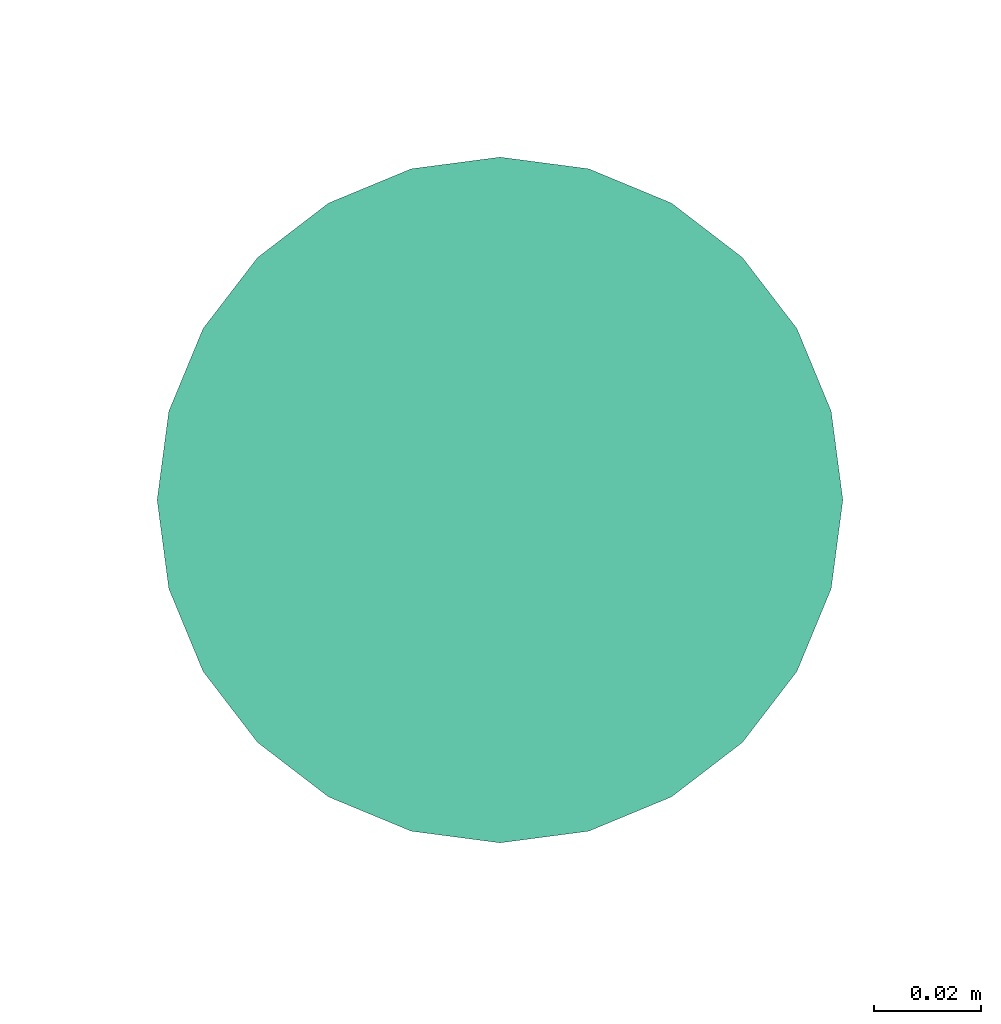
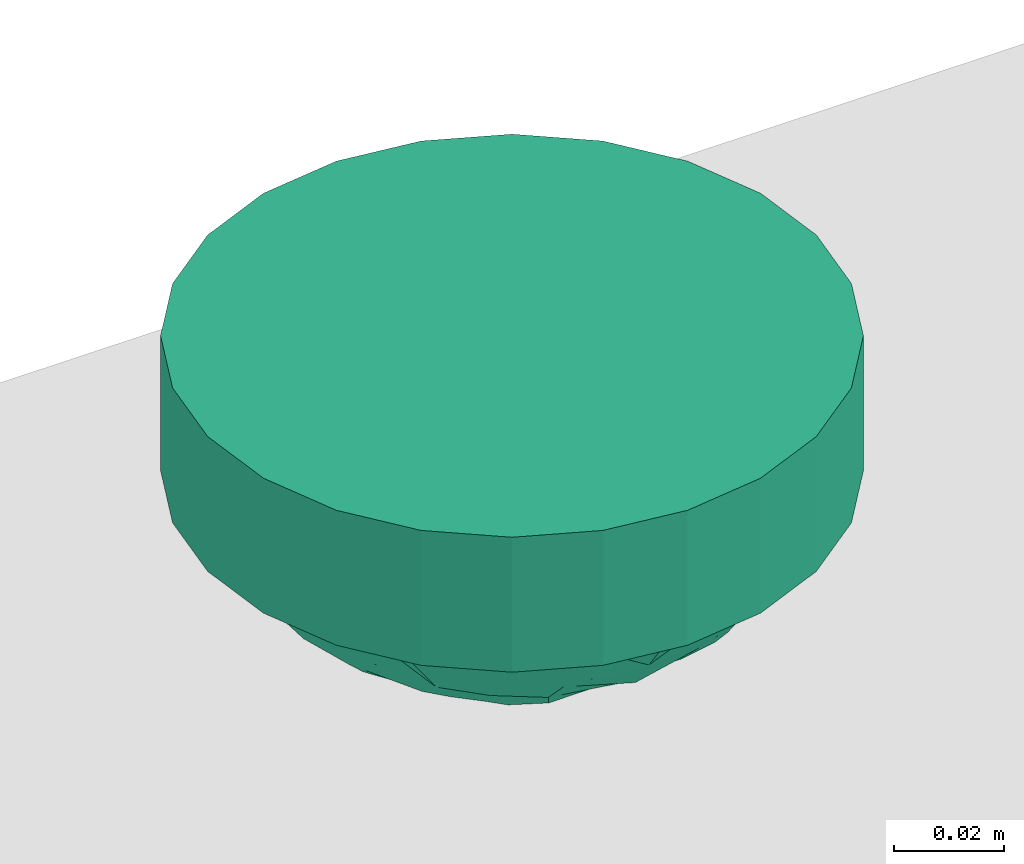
# One storey, part 81 of 153: 1 flow terminal.
"""IFC2X3 building model written with IfcOpenShell, lengths in metres."""

import ifcopenshell
import ifcopenshell.guid

model = None  # the IFC model being written
_history = None  # IfcOwnerHistory: only IFC2X3 demands one
_inside = {}  # id of a spatial element -> (the spatial element, [elements in it])
_under = {}  # id of a project, library or spatial element -> (it, [spatial elements below it])
_declared = {}  # id of a project -> (the project, [libraries it declares])
_typed = {}  # id of a type object -> (the type object, [elements of that type])
_made_of = {}  # id of a material, layer set ... -> (it, [elements and type objects made of it])


def new_model(schema):
    """Start an empty IFC model of exactly this schema.

    Asked for "IFC4X3", IfcOpenShell would pick the latest addendum, in which some entities
    have other attributes; the version numbers below select the first issue.
    IFC2X3 requires an IfcOwnerHistory on every rooted entity: one is made here for all.
    """
    global model, _history
    if schema == "IFC4X3":
        model = ifcopenshell.file(schema_version=(4, 3, 0, 0))
    else:
        model = ifcopenshell.file(schema=schema)
    _inside.clear()
    _under.clear()
    _declared.clear()
    _typed.clear()
    _made_of.clear()
    _history = None
    if model.schema == "IFC2X3":
        org = make("IfcOrganization", Name="unknown")
        user = make(
            "IfcPersonAndOrganization",
            ThePerson=make("IfcPerson", FamilyName="unknown"),
            TheOrganization=org,
        )
        app = make(
            "IfcApplication",
            ApplicationDeveloper=org,
            Version="unknown",
            ApplicationFullName="unknown",
            ApplicationIdentifier="unknown",
        )
        _history = make(
            "IfcOwnerHistory",
            OwningUser=user,
            OwningApplication=app,
            ChangeAction="ADDED",
            CreationDate=0,
        )
    return model


def make(cls, **values):
    """One entity of the class cls with the attributes given. An attribute that is None is left unset."""
    return model.create_entity(
        cls, **{name: value for name, value in values.items() if value is not None}
    )


def entity(cls, *values):
    """Any entity or typed value of the class cls, its attributes in the order of the schema. None: left unset."""
    e = model.create_entity(cls)
    for i, value in enumerate(values):
        if value is not None:
            e[i] = value
    return e


def rooted(cls, **values):
    """An entity with a GlobalId (a new one), such as an element, a storey or a relation."""
    return make(cls, GlobalId=ifcopenshell.guid.new(), OwnerHistory=_history, **values)


def si_unit(unit_type, name, prefix=None):
    """IfcSIUnit, for example si_unit("LENGTHUNIT", "METRE", prefix="MILLI")."""
    return make("IfcSIUnit", UnitType=unit_type, Prefix=prefix, Name=name)


def converted_unit(unit_type, name, factor, base, dimensions=None, offset=None):
    """IfcConversionBasedUnit, such as the inch: factor (a typed value) times the base unit."""
    return make(
        "IfcConversionBasedUnit"
        if offset is None
        else "IfcConversionBasedUnitWithOffset",
        ConversionOffset=offset,
        Dimensions=None
        if dimensions is None
        else entity("IfcDimensionalExponents", *dimensions),
        UnitType=unit_type,
        Name=name,
        ConversionFactor=make(
            "IfcMeasureWithUnit", ValueComponent=factor, UnitComponent=base
        ),
    )


def derived_unit(unit_type, elements):
    """IfcDerivedUnit: a product of units, each with its exponent."""
    return make(
        "IfcDerivedUnit",
        Elements=[
            make("IfcDerivedUnitElement", Unit=unit, Exponent=power)
            for unit, power in elements
        ],
        UnitType=unit_type,
    )


def assignment(units):
    """IfcUnitAssignment: the units of a project."""
    return None if units is None else make("IfcUnitAssignment", Units=units)


def point(xyz):
    """IfcCartesianPoint."""
    return None if xyz is None else make("IfcCartesianPoint", Coordinates=xyz)


def direction(xyz):
    """IfcDirection."""
    return None if xyz is None else make("IfcDirection", DirectionRatios=xyz)


def frame(location, z_axis=None, x_axis=None):
    """IfcAxis2Placement3D, a coordinate frame: its origin and axes. An axis left out is left unset."""
    return make(
        "IfcAxis2Placement3D",
        Location=point(location),
        Axis=direction(z_axis),
        RefDirection=direction(x_axis),
    )


def origin():
    """The frame at (0, 0, 0) with its axes left unset."""
    return frame((0.0, 0.0, 0.0))


def place(relative_to, where):
    """IfcLocalPlacement: puts the frame where relative to a parent placement (None: the world)."""
    return make(
        "IfcLocalPlacement", PlacementRelTo=relative_to, RelativePlacement=where
    )


def context(
    kind, dimensions, precision=None, world=None, true_north=None, identifier=None
):
    """IfcGeometricRepresentationContext, for example the 3D "Model" context."""
    return make(
        "IfcGeometricRepresentationContext",
        ContextIdentifier=identifier,
        ContextType=kind,
        CoordinateSpaceDimension=dimensions,
        Precision=precision,
        WorldCoordinateSystem=world,
        TrueNorth=true_north,
    )


def subcontext(parent, identifier, kind, view, scale=None):
    """IfcGeometricRepresentationSubContext, for example "Body" below "Model"."""
    return make(
        "IfcGeometricRepresentationSubContext",
        ContextIdentifier=identifier,
        ContextType=kind,
        ParentContext=parent,
        TargetScale=scale,
        TargetView=view,
    )


def project(units=None, contexts=None):
    """IfcProject with its units and contexts."""
    return rooted(
        "IfcProject",
        Name="project",
        RepresentationContexts=contexts,
        UnitsInContext=assignment(units),
    )


def spatial(cls, under=None, at=None, **own):
    """A site, building, storey or space (cls), placed at a placement, below another one or the project."""
    s = rooted(cls, ObjectPlacement=at, **own)
    if under is not None:
        _under.setdefault(under.id(), (under, []))[1].append(s)
    return s


def faces_of(points, faces, orient=None, outer=None):
    """IfcFace entities. A face is a list of loops; a loop is a list of indices into points, from 0.

    orient and outer hold one flag for each loop. By default every Orientation is true, the
    first loop of a face is its IfcFaceOuterBound and the others are IfcFaceBound.
    """
    made = []
    for i, loops in enumerate(faces):
        bounds = []
        for j, loop in enumerate(loops):
            is_outer = j == 0 if outer is None else outer[i][j]
            bounds.append(
                make(
                    "IfcFaceOuterBound" if is_outer else "IfcFaceBound",
                    Bound=make("IfcPolyLoop", Polygon=[points[k] for k in loop]),
                    Orientation=True if orient is None else orient[i][j],
                )
            )
        made.append(make("IfcFace", Bounds=bounds))
    return made


def faceted_brep(points, faces, orient=None, outer=None, voids=None):
    """IfcFacetedBrep: a solid bounded by flat faces; with voids (closed shells), ...WithVoids."""
    shared = [point(p) for p in points]
    hull = make("IfcClosedShell", CfsFaces=faces_of(shared, faces, orient, outer))
    if voids is None:
        return make("IfcFacetedBrep", Outer=hull)
    return make(
        "IfcFacetedBrepWithVoids",
        Outer=hull,
        Voids=[
            make(cls, CfsFaces=faces_of(shared, fs, o, b)) for cls, fs, o, b in voids
        ],
    )


def shape(context_of_items, identifier, shape_type, items):
    """IfcShapeRepresentation: the items that make up one representation, for example the "Body"."""
    return make(
        "IfcShapeRepresentation",
        ContextOfItems=context_of_items,
        RepresentationIdentifier=identifier,
        RepresentationType=shape_type,
        Items=items,
    )


def source(mapping_origin, context_of_items, identifier, shape_type, items):
    """IfcRepresentationMap: a shape defined once, which mapped items show again and again."""
    return make(
        "IfcRepresentationMap",
        MappingOrigin=mapping_origin,
        MappedRepresentation=shape(context_of_items, identifier, shape_type, items),
    )


def transform(
    local_origin,
    x_axis=None,
    y_axis=None,
    z_axis=None,
    scale=None,
    scale2=None,
    scale3=None,
    uniform=True,
):
    """IfcCartesianTransformationOperator3D, or its non-uniform kind. x_axis, y_axis, z_axis: its Axis1, 2, 3."""
    if uniform:
        return make(
            "IfcCartesianTransformationOperator3D",
            Axis1=direction(x_axis),
            Axis2=direction(y_axis),
            LocalOrigin=point(local_origin),
            Scale=scale,
            Axis3=direction(z_axis),
        )
    return make(
        "IfcCartesianTransformationOperator3DnonUniform",
        Axis1=direction(x_axis),
        Axis2=direction(y_axis),
        LocalOrigin=point(local_origin),
        Scale=scale,
        Axis3=direction(z_axis),
        Scale2=scale2,
        Scale3=scale3,
    )


def mapped(mapping_source, mapping_target):
    """IfcMappedItem: shows the shape of a source again, moved by a transform."""
    return make(
        "IfcMappedItem", MappingSource=mapping_source, MappingTarget=mapping_target
    )


def made_of(thing, what):
    """Note that an element or type object is made of a material, layer set ...; save() writes the relation."""
    if what is not None:
        _made_of.setdefault(what.id(), (what, []))[1].append(thing)
    return thing


def type_object(cls, material=None, **own):
    """A type object (cls), such as IfcWallType, which elements share."""
    return made_of(rooted(cls, **own), material)


def type_shapes(of_type, sources):
    """Give a type object the sources (RepresentationMaps) that its elements show as mapped items."""
    of_type.RepresentationMaps = sources


def element(
    cls,
    number,
    at=None,
    inside=None,
    cuts=None,
    type_object=None,
    material=None,
    context=None,
    identifier="Body",
    shape_type=None,
    held_by="IfcProductDefinitionShape",
    body=None,
    shapes=None,
    **own,
):
    """One element of the class cls, such as IfcWall. Its Tag is "e" and its number.

    at: its placement. inside: the storey or other place that contains it. cuts: it is an
    opening in that element (IfcRelVoidsElement). A single representation is given by context,
    identifier, shape_type and body (its items); several are given by shapes. held_by: the class
    of the entity that holds the representations. save() writes the other relations.
    """
    e = rooted(cls, Tag="e%d" % number, ObjectPlacement=at, **own)
    if body is not None:
        shapes = [shape(context, identifier, shape_type, body)]
    if shapes is not None:
        e.Representation = make(held_by, Representations=shapes)
    if inside is not None:
        _inside.setdefault(inside.id(), (inside, []))[1].append(e)
    if cuts is not None:
        rooted(
            "IfcRelVoidsElement", RelatingBuildingElement=cuts, RelatedOpeningElement=e
        )
    if type_object is not None:
        _typed.setdefault(type_object.id(), (type_object, []))[1].append(e)
    return made_of(e, material)


def aggregate(whole, parts):
    """IfcRelAggregates: a whole, such as a stair, and the parts it consists of."""
    return rooted("IfcRelAggregates", RelatingObject=whole, RelatedObjects=parts)


def save(model, path):
    """Write the relations noted so far, then the file.

    IfcRelAggregates (storeys below a building ...), IfcRelContainedInSpatialStructure (elements
    in a storey), IfcRelDefinesByType, IfcRelAssociatesMaterial and IfcRelDeclares: one each for
    every whole, place, type object, material and project.
    """
    for whole, parts in _under.values():
        aggregate(whole, parts)
    for where, things in _inside.values():
        rooted(
            "IfcRelContainedInSpatialStructure",
            RelatedElements=things,
            RelatingStructure=where,
        )
    for kind, things in _typed.values():
        rooted("IfcRelDefinesByType", RelatedObjects=things, RelatingType=kind)
    for what, things in _made_of.values():
        rooted("IfcRelAssociatesMaterial", RelatedObjects=things, RelatingMaterial=what)
    for by, libraries in _declared.values():
        rooted("IfcRelDeclares", RelatingContext=by, RelatedDefinitions=libraries)
    model.write(path)


model = new_model("IFC2X3")

# Units and contexts
model_context = context("Model", 3, precision=1e-05, world=origin(), true_north=direction((6.12303176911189e-17, 1.0)))
body_context = subcontext(model_context, "Body", "Model", "MODEL_VIEW")
ifc_project = project(units=[si_unit("LENGTHUNIT", "METRE"), si_unit("AREAUNIT", "SQUARE_METRE"), si_unit("VOLUMEUNIT", "CUBIC_METRE"), converted_unit("PLANEANGLEUNIT", "DEGREE", entity("IfcRatioMeasure", 0.0174532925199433), si_unit("PLANEANGLEUNIT", "RADIAN"), dimensions=[0, 0, 0, 0, 0, 0, 0]), si_unit("MASSUNIT", "GRAM", prefix="KILO"), derived_unit("MASSDENSITYUNIT", [(si_unit("MASSUNIT", "GRAM", prefix="KILO"), 1), (si_unit("LENGTHUNIT", "METRE"), -3)]), si_unit("TIMEUNIT", "SECOND"), si_unit("FREQUENCYUNIT", "HERTZ"), si_unit("THERMODYNAMICTEMPERATUREUNIT", "DEGREE_CELSIUS"), derived_unit("THERMALTRANSMITTANCEUNIT", [(si_unit("MASSUNIT", "GRAM", prefix="KILO"), 1), (si_unit("THERMODYNAMICTEMPERATUREUNIT", "KELVIN"), -1), (si_unit("TIMEUNIT", "SECOND"), -3)]), derived_unit("VOLUMETRICFLOWRATEUNIT", [(si_unit("LENGTHUNIT", "METRE"), 3), (si_unit("TIMEUNIT", "SECOND"), -1)]), si_unit("ELECTRICCURRENTUNIT", "AMPERE"), si_unit("ELECTRICVOLTAGEUNIT", "VOLT"), si_unit("POWERUNIT", "WATT"), si_unit("FORCEUNIT", "NEWTON"), si_unit("ILLUMINANCEUNIT", "LUX"), si_unit("LUMINOUSFLUXUNIT", "LUMEN"), si_unit("LUMINOUSINTENSITYUNIT", "CANDELA"), derived_unit("USERDEFINED", [(si_unit("MASSUNIT", "GRAM", prefix="KILO"), -1), (si_unit("LENGTHUNIT", "METRE"), -2), (si_unit("TIMEUNIT", "SECOND"), 3), (si_unit("LUMINOUSFLUXUNIT", "LUMEN"), 1)]), derived_unit("LINEARVELOCITYUNIT", [(si_unit("LENGTHUNIT", "METRE"), 1), (si_unit("TIMEUNIT", "SECOND"), -1)]), si_unit("PRESSUREUNIT", "PASCAL"), derived_unit("USERDEFINED", [(si_unit("LENGTHUNIT", "METRE"), -2), (si_unit("MASSUNIT", "GRAM", prefix="KILO"), 1), (si_unit("TIMEUNIT", "SECOND"), -2)])], contexts=[model_context])

# Site, building, storey
site_placement = place(None, origin())
site = spatial("IfcSite", under=ifc_project, at=site_placement, Name="Default", CompositionType="ELEMENT")
building_placement = place(site_placement, origin())
building = spatial("IfcBuilding", under=site, at=building_placement, CompositionType="ELEMENT")
storey_placement = place(building_placement, frame((0.0, 0.0, -4.62)))
storey = spatial("IfcBuildingStorey", under=building, at=storey_placement, Name="S02", CompositionType="ELEMENT", Elevation=-4.62)

# Flow terminal
light_fixture_type = type_object("IfcLightFixtureType", Name="Détecteur 360°", PredefinedType="NOTDEFINED")
shared_shape = source(origin(), body_context, "Body", "Brep", [
    faceted_brep([(0.0, -0.0397165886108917, 0.0531256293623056), (0.0, -0.034524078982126, 0.0563702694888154), (-0.0175153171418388, -0.0435914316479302, 0.0478512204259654), (-0.0194029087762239, -0.000878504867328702, 0.0644483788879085), (0.0, 0.0, 0.0669999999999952), (0.0, 0.00603476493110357, 0.0659648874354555), (-0.0174057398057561, -0.0159851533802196, 0.0630502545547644), (-0.0366619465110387, -0.0127227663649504, 0.0549213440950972), (-0.026998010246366, -0.0195753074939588, 0.0584711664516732), (-0.0202403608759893, -0.0335607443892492, 0.054639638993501), (-0.0359767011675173, -0.0348394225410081, 0.0444249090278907), (-0.0276843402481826, -0.0401006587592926, 0.0459804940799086), (-0.0133088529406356, -0.0517577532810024, 0.0400582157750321), (-0.0172617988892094, -0.0486391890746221, 0.042533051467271), (-0.0256912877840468, -0.0533485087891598, 0.0299999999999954), (-0.0462941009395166, -0.0369183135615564, 0.0299999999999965), (0.0, -0.0241390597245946, 0.0628595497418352), (-0.0186245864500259, -0.0267295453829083, 0.0589100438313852), (-0.0139070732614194, -0.0374370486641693, 0.0540817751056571), (0.0, 0.0449090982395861, 0.049880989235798), (-0.0172618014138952, 0.0486391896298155, 0.0425330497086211), (0.0, 0.0397165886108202, 0.0531256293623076), (-0.0186245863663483, 0.0267295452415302, 0.0589100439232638), (-0.0202403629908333, 0.0335607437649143, 0.054639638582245), (-0.0353547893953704, 0.0284533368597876, 0.0494330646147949), (0.0, 0.0120695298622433, 0.0649297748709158), (-0.0249385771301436, 0.0204731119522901, 0.0590841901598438), (-0.0191783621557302, 0.0150189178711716, 0.062775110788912), (-0.0465404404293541, -0.0196510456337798, 0.0438984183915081), (-0.052010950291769, -0.0250471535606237, 0.029999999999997), (-0.0453471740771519, -0.0286501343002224, 0.0397747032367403), (-0.0365036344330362, -0.0226255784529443, 0.0516441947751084), (-0.0175153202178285, 0.0435914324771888, 0.0478512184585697), (-0.0359926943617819, 0.0451334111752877, 0.0299999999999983), (-0.0276843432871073, 0.0401006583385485, 0.0459804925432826), (-0.00849704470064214, -0.0572729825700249, 0.0299999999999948), (0.0, -0.0592123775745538, 0.0299999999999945), (0.0, -0.0545512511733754, 0.0364787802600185), (0.0, -0.049890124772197, 0.0429575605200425), (-0.0169940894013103, -0.055333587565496, 0.0299999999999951), (-0.0359767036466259, 0.0348394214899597, 0.0444249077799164), (-0.025691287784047, 0.0533485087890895, 0.0299999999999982), (-0.0308419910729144, 0.0492409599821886, 0.0299999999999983), (-0.0130265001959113, 0.0514867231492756, 0.040526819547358), (-0.0169940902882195, 0.0553335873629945, 0.029999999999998), (0.0, 0.0498901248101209, 0.0429575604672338), (-0.0353547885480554, -0.0284533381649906, 0.0494330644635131), (0.0, 0.0181042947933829, 0.0638946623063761), (-0.0473669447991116, -0.00128092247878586, 0.0474310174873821), (-0.0485435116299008, -0.00908961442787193, 0.0452357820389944), (-0.0366597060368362, -0.0032867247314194, 0.0563153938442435), (-0.0226425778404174, -0.0107553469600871, 0.0624973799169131), (0.0, -0.00603476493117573, 0.0659648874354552), (0.0, 0.0293315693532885, 0.0596149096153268), (-0.0139070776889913, 0.0374370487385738, 0.0540817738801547), (-0.0449600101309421, 0.018422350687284, 0.0461366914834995), (-0.0453471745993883, 0.0286501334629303, 0.0397747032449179), (-0.0476906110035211, 0.00670602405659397, 0.0466053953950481), (-0.0577277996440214, 0.0131759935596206, 0.0299999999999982), (-0.0577277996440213, 0.00658799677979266, 0.029999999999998), (-0.0577277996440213, 0.0, 0.0299999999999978), (0.0, -0.0449090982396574, 0.0498809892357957), (-0.0308419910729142, -0.049240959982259, 0.0299999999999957), (-0.0359926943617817, -0.0451334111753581, 0.029999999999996), (0.0, 0.0345240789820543, 0.0563702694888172), (-0.0411433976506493, 0.0410258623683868, 0.0299999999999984), (-0.0462941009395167, 0.0369183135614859, 0.0299999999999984), (-0.0491525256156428, -0.03098273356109, 0.0299999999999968), (-0.0577277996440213, -0.0131759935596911, 0.0299999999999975), (0.0, -0.018104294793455, 0.0638946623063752), (-0.0377433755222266, 0.0044838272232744, 0.0554913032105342), (-0.0577277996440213, -0.00658799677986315, 0.0299999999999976), (-0.0385149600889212, 0.0124844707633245, 0.0536578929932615), (-0.0491525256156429, 0.0309827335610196, 0.0299999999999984), (-0.0548693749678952, 0.0191115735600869, 0.0299999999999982), (0.0, 0.0241390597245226, 0.0628595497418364), (-0.014625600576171, 0.0100436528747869, 0.0649170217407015), (-0.0271766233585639, 0.00920278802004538, 0.0609170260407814), (0.0, -0.0120695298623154, 0.0649297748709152), (-0.0520109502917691, 0.0250471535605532, 0.0299999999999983), (-0.0411433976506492, -0.0410258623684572, 0.0299999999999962), (-0.0548693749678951, -0.0191115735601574, 0.0299999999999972), (0.0, -0.0293315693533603, 0.0596149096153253), (0.0, 0.0545512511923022, 0.0364787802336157), (0.0, 0.0592123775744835, 0.0299999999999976), (-0.00849704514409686, 0.057272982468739, 0.0299999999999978), (-0.0127455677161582, 0.0563032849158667, 0.0299999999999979), (-0.0213426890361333, 0.054341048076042, 0.0299999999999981), (0.0175153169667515, 0.0435914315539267, 0.0478512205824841), (0.0194029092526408, 0.000878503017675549, 0.0644483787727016), (0.017405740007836, 0.0159851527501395, 0.0630502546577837), (0.0366619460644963, 0.012722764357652, 0.0549213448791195), (0.0269980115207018, 0.0195753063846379, 0.0584711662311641), (0.0202403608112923, 0.0335607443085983, 0.0546396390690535), (0.0359767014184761, 0.0348394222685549, 0.0444249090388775), (0.0276843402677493, 0.0401006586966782, 0.0459804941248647), (0.0133088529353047, 0.0517577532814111, 0.0400582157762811), (0.0172617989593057, 0.0486391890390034, 0.0425330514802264), (0.0256912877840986, 0.0533485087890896, 0.0299999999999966), (0.0462941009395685, 0.0369183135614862, 0.0299999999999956), (0.00849704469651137, 0.0572729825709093, 0.0299999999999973), (0.0169940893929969, 0.0553335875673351, 0.029999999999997), (0.0172617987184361, -0.0486391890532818, 0.0425330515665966), (0.025691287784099, -0.0533485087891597, 0.0299999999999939), (0.0308419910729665, -0.0492409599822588, 0.0299999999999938), (0.0175153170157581, -0.0435914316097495, 0.0478512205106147), (0.0186245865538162, -0.0267295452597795, 0.0589100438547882), (0.0202403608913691, -0.03356074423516, 0.0546396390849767), (0.0353547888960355, -0.0284533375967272, 0.0494330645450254), (0.0249385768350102, -0.0204731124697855, 0.0590841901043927), (0.0191783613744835, -0.0150189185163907, 0.062775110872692), (0.0465404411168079, 0.0196510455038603, 0.0438984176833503), (0.0577277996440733, 0.0131759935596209, 0.0299999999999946), (0.0548693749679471, 0.0191115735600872, 0.0299999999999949), (0.0520109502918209, 0.0250471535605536, 0.0299999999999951), (0.0365036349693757, 0.0226255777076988, 0.0516441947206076), (0.0186245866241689, 0.0267295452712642, 0.0589100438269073), (0.0359926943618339, -0.0451334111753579, 0.0299999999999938), (0.0276843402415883, -0.0401006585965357, 0.0459804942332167), (0.0139070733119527, 0.0374370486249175, 0.0540817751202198), (0.0359767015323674, -0.0348394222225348, 0.044424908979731), (0.0226425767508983, 0.0107553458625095, 0.0624973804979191), (0.0169940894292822, -0.0553335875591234, 0.0299999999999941), (0.0130264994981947, -0.0514867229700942, 0.0405268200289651), (0.0453471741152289, 0.0286501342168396, 0.039774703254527), (0.0353547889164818, 0.0284533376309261, 0.0494330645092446), (0.0473669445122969, 0.00128092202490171, 0.0474310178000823), (0.0485435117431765, 0.00908961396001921, 0.0452357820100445), (0.0366597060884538, 0.00328672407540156, 0.0563153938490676), (0.0139070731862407, -0.0374370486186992, 0.0540817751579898), (0.0449600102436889, -0.018422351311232, 0.0461366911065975), (0.0453471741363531, -0.0286501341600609, 0.039774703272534), (0.0476906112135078, -0.00670602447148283, 0.046605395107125), (0.0577277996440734, -0.0131759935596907, 0.0299999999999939), (0.0577277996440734, -0.00658799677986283, 0.0299999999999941), (0.0577277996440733, 0.0, 0.0299999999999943), (0.0308419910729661, 0.0492409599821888, 0.0299999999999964), (0.0359926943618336, 0.0451334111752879, 0.0299999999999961), (0.0411433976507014, -0.041025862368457, 0.0299999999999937), (0.0462941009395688, -0.0369183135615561, 0.0299999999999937), (0.0491525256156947, 0.0309827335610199, 0.0299999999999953), (0.037743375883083, -0.00448382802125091, 0.0554913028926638), (0.0577277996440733, 0.00658799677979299, 0.0299999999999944), (0.0385149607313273, -0.0124844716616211, 0.0536578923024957), (0.049152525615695, -0.0309827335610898, 0.0299999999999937), (0.0548693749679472, -0.0191115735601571, 0.0299999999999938), (0.0146256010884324, -0.0100436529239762, 0.0649170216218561), (0.0271766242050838, -0.00920278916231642, 0.0609170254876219), (0.0520109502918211, -0.0250471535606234, 0.0299999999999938), (0.041143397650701, 0.0410258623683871, 0.0299999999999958), (0.00849704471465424, -0.0572729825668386, 0.0299999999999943), (0.0127455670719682, -0.056303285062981, 0.0299999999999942), (0.0213426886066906, -0.0543410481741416, 0.029999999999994), (0.0, 0.0, 0.0299999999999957)], [[[0, 1, 2]], [[3, 4, 5]], [[6, 7, 8]], [[9, 10, 11]], [[12, 13, 14]], [[10, 15, 11]], [[9, 16, 17]], [[18, 9, 11]], [[19, 20, 21]], [[22, 23, 24]], [[25, 26, 27]], [[28, 29, 30]], [[8, 31, 17]], [[32, 33, 34]], [[35, 36, 37, 38, 39]], [[23, 40, 24]], [[20, 41, 42]], [[19, 43, 20]], [[44, 43, 45]], [[20, 32, 21]], [[30, 10, 46]], [[22, 26, 47]], [[48, 49, 50]], [[3, 51, 52]], [[53, 54, 23]], [[55, 24, 56]], [[57, 58, 59, 60]], [[13, 61, 0]], [[13, 0, 2]], [[2, 62, 13]], [[18, 2, 1]], [[2, 11, 63]], [[32, 64, 21]], [[32, 42, 33]], [[34, 33, 65, 66]], [[20, 42, 32]], [[54, 32, 34]], [[28, 30, 31]], [[10, 67, 15]], [[49, 68, 28]], [[8, 17, 69]], [[7, 6, 51]], [[28, 31, 7]], [[57, 48, 70]], [[58, 57, 55]], [[48, 71, 49]], [[70, 48, 50]], [[3, 50, 51]], [[55, 26, 24]], [[72, 57, 70]], [[26, 55, 72]], [[56, 40, 73]], [[56, 74, 55]], [[47, 75, 22]], [[52, 4, 3]], [[7, 50, 49]], [[5, 76, 3]], [[70, 3, 77]], [[51, 78, 52]], [[26, 25, 47]], [[76, 25, 27]], [[23, 22, 75]], [[26, 22, 24]], [[53, 64, 54]], [[23, 34, 40]], [[66, 40, 34]], [[40, 66, 73]], [[56, 73, 79, 74]], [[72, 27, 26]], [[40, 56, 24]], [[23, 75, 53]], [[69, 17, 16]], [[78, 6, 69]], [[46, 10, 9]], [[46, 9, 17]], [[50, 7, 51]], [[30, 29, 67]], [[80, 63, 11, 15]], [[28, 68, 81, 29]], [[10, 30, 67]], [[30, 46, 31]], [[82, 18, 1]], [[82, 16, 9]], [[28, 7, 49]], [[12, 39, 38]], [[61, 13, 12]], [[83, 84, 85, 86, 44, 45]], [[43, 41, 20]], [[44, 87, 41, 43]], [[32, 54, 64]], [[23, 54, 34]], [[9, 18, 82]], [[2, 18, 11]], [[39, 12, 14]], [[38, 61, 12]], [[62, 2, 63]], [[62, 14, 13]], [[17, 31, 46]], [[7, 31, 8]], [[48, 60, 71]], [[71, 68, 49]], [[60, 48, 57]], [[3, 70, 50]], [[72, 70, 77]], [[72, 77, 27]], [[55, 57, 72]], [[74, 58, 55]], [[76, 27, 77]], [[3, 76, 77]], [[25, 76, 5]], [[69, 6, 8]], [[78, 51, 6]], [[45, 43, 19]], [[21, 64, 88]], [[89, 4, 52]], [[90, 91, 92]], [[93, 94, 95]], [[96, 97, 98]], [[94, 99, 95]], [[100, 84, 83, 45, 101]], [[102, 103, 104]], [[102, 105, 0]], [[106, 107, 108]], [[78, 109, 110]], [[111, 112, 113, 114]], [[92, 115, 116]], [[105, 117, 118]], [[119, 93, 95]], [[107, 120, 108]], [[89, 121, 5]], [[122, 123, 38]], [[61, 123, 102]], [[93, 75, 116]], [[124, 94, 125]], [[106, 109, 69]], [[126, 127, 128]], [[61, 102, 0]], [[82, 129, 107]], [[130, 108, 131]], [[132, 133, 134, 135]], [[97, 19, 21]], [[97, 21, 88]], [[88, 136, 97]], [[119, 88, 64]], [[88, 95, 137]], [[105, 1, 0]], [[105, 104, 117]], [[118, 117, 138, 139]], [[102, 104, 105]], [[129, 105, 118]], [[111, 124, 115]], [[94, 140, 99]], [[127, 112, 111]], [[92, 116, 47]], [[91, 90, 121]], [[111, 115, 91]], [[132, 126, 141]], [[133, 132, 130]], [[126, 142, 127]], [[141, 126, 128]], [[89, 128, 121]], [[130, 109, 108]], [[143, 132, 141]], [[109, 130, 143]], [[131, 120, 144]], [[131, 145, 130]], [[69, 16, 106]], [[5, 4, 89]], [[91, 128, 127]], [[52, 146, 89]], [[141, 89, 147]], [[121, 25, 5]], [[109, 78, 69]], [[146, 78, 110]], [[107, 106, 16]], [[109, 106, 108]], [[82, 1, 129]], [[107, 118, 120]], [[139, 120, 118]], [[120, 139, 144]], [[131, 144, 148, 145]], [[143, 110, 109]], [[120, 131, 108]], [[107, 16, 82]], [[47, 116, 75]], [[25, 90, 47]], [[125, 94, 93]], [[125, 93, 116]], [[128, 91, 121]], [[124, 114, 140]], [[149, 137, 95, 99]], [[111, 114, 124]], [[94, 124, 140]], [[124, 125, 115]], [[53, 119, 64]], [[53, 75, 93]], [[111, 91, 127]], [[96, 101, 45]], [[19, 97, 96]], [[37, 36, 150, 151, 122, 38]], [[123, 103, 102]], [[122, 152, 103, 123]], [[105, 129, 1]], [[107, 129, 118]], [[93, 119, 53]], [[88, 119, 95]], [[101, 96, 98]], [[45, 19, 96]], [[136, 88, 137]], [[136, 98, 97]], [[116, 115, 125]], [[91, 115, 92]], [[126, 135, 142]], [[142, 112, 127]], [[135, 126, 132]], [[89, 141, 128]], [[143, 141, 147]], [[143, 147, 110]], [[130, 132, 143]], [[145, 133, 130]], [[146, 110, 147]], [[89, 146, 147]], [[78, 146, 52]], [[47, 90, 92]], [[25, 121, 90]], [[38, 123, 61]], [[153, 66, 65]], [[153, 65, 33]], [[153, 33, 42]], [[153, 42, 41]], [[153, 41, 87]], [[153, 73, 66]], [[153, 79, 73]], [[153, 74, 79]], [[153, 58, 74]], [[153, 87, 44]], [[153, 44, 86]], [[153, 86, 85]], [[153, 85, 84]], [[153, 84, 100]], [[153, 59, 58]], [[153, 60, 59]], [[153, 71, 60]], [[153, 68, 71]], [[153, 81, 68]], [[153, 29, 81]], [[153, 67, 29]], [[153, 15, 67]], [[153, 80, 15]], [[153, 63, 80]], [[153, 62, 63]], [[153, 14, 62]], [[153, 39, 14]], [[153, 35, 39]], [[153, 36, 35]], [[153, 100, 101]], [[153, 101, 98]], [[153, 98, 136]], [[153, 136, 137]], [[153, 137, 149]], [[153, 149, 99]], [[153, 99, 140]], [[153, 140, 114]], [[153, 114, 113]], [[153, 113, 112]], [[153, 112, 142]], [[153, 150, 36]], [[153, 151, 150]], [[153, 122, 151]], [[153, 152, 122]], [[153, 103, 152]], [[153, 104, 103]], [[153, 117, 104]], [[153, 138, 117]], [[153, 139, 138]], [[153, 144, 139]], [[153, 148, 144]], [[153, 145, 148]], [[153, 133, 145]], [[153, 142, 135]], [[153, 135, 134]], [[153, 134, 133]]]),
    faceted_brep([(0.0165644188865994, -0.0618192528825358, 0.029999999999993), (0.0320000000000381, -0.0554256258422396, 0.0299999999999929), (0.0452548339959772, -0.0452548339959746, 0.0299999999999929), (0.0554256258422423, -0.0320000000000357, 0.029999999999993), (0.0618192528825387, -0.016564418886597, 0.0299999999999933), (0.0640000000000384, 0.0, 0.0299999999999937), (0.0618192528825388, 0.016564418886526, 0.0299999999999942), (0.0554256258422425, 0.0319999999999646, 0.0299999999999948), (0.0452548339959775, 0.0452548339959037, 0.0299999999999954), (0.0320000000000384, 0.0554256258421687, 0.0299999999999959), (0.0165644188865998, 0.061819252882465, 0.0299999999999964), (0.0, 0.0639999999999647, 0.0299999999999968), (-0.0165644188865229, 0.061819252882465, 0.0299999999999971), (-0.0319999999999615, 0.0554256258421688, 0.0299999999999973), (-0.0452548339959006, 0.0452548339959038, 0.0299999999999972), (-0.0554256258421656, 0.0319999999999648, 0.0299999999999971), (-0.0618192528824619, 0.0165644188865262, 0.0299999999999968), (-0.0639999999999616, 0.0, 0.0299999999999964), (-0.061819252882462, -0.0165644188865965, 0.0299999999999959), (-0.0554256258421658, -0.0320000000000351, 0.0299999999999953), (-0.0452548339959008, -0.0452548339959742, 0.0299999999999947), (-0.0319999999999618, -0.0554256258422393, 0.0299999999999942), (-0.0165644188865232, -0.0618192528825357, 0.0299999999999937), (0.0, -0.0640000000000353, 0.0299999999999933), (0.0165644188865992, 0.0618192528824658, 0.0), (0.0320000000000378, 0.0554256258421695, 0.0), (0.0452548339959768, 0.0452548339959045, 0.0), (0.0554256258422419, 0.0319999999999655, 0.0), (0.0618192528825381, 0.0165644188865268, 0.0), (0.0640000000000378, 0.0, 0.0), (0.061819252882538, -0.0165644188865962, 0.0), (0.0554256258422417, -0.0320000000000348, 0.0), (0.0452548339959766, -0.0452548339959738, 0.0), (0.0320000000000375, -0.0554256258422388, 0.0), (0.0165644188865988, -0.061819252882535, 0.0), (0.0, -0.0640000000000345, 0.0), (-0.0165644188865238, -0.0618192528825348, 0.0), (-0.0319999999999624, -0.0554256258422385, 0.0), (-0.0452548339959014, -0.0452548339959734, 0.0), (-0.0554256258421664, -0.0320000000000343, 0.0), (-0.0618192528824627, -0.0165644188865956, 0.0), (-0.0639999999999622, 0.0, 0.0), (-0.0618192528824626, 0.016564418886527, 0.0), (-0.0554256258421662, 0.0319999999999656, 0.0), (-0.0452548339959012, 0.0452548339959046, 0.0), (-0.0319999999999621, 0.0554256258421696, 0.0), (-0.0165644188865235, 0.0618192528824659, 0.0), (0.0, 0.0639999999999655, 0.0)], [[[0, 1, 2, 3, 4, 5, 6, 7, 8, 9, 10, 11, 12, 13, 14, 15, 16, 17, 18, 19, 20, 21, 22, 23]], [[24, 25, 26, 27, 28, 29, 30, 31, 32, 33, 34, 35, 36, 37, 38, 39, 40, 41, 42, 43, 44, 45, 46, 47]], [[40, 18, 17, 41]], [[39, 19, 18, 40]], [[21, 20, 38, 37]], [[39, 38, 20, 19]], [[22, 21, 37, 36]], [[23, 22, 36, 35]], [[34, 0, 23, 35]], [[33, 1, 0, 34]], [[3, 2, 32, 31]], [[33, 32, 2, 1]], [[4, 3, 31, 30]], [[5, 4, 30, 29]], [[28, 6, 5, 29]], [[27, 7, 6, 28]], [[9, 8, 26, 25]], [[27, 26, 8, 7]], [[10, 9, 25, 24]], [[11, 10, 24, 47]], [[46, 12, 11, 47]], [[45, 13, 12, 46]], [[42, 41, 17, 16]], [[44, 14, 13, 45]], [[43, 15, 14, 44]], [[43, 42, 16, 15]]]),
])
type_shapes(light_fixture_type, [shared_shape])
flow_terminal_placement = place(storey_placement, frame((53.0417436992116, -194.027320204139, 4.175), z_axis=(0.0, 0.0, -1.0), x_axis=(1.0, 0.0, 0.0)))
element("IfcFlowTerminal", 1, at=flow_terminal_placement, inside=storey, type_object=light_fixture_type, Name="INT - Détecteur 360°:Détecteur 360°", ObjectType="INT - Détecteur 360°:Détecteur 360°", context=body_context, shape_type="MappedRepresentation", body=[
    mapped(shared_shape, transform((0.0, 0.0, 0.0), scale=1.0)),
])

save(model, "model.ifc")
